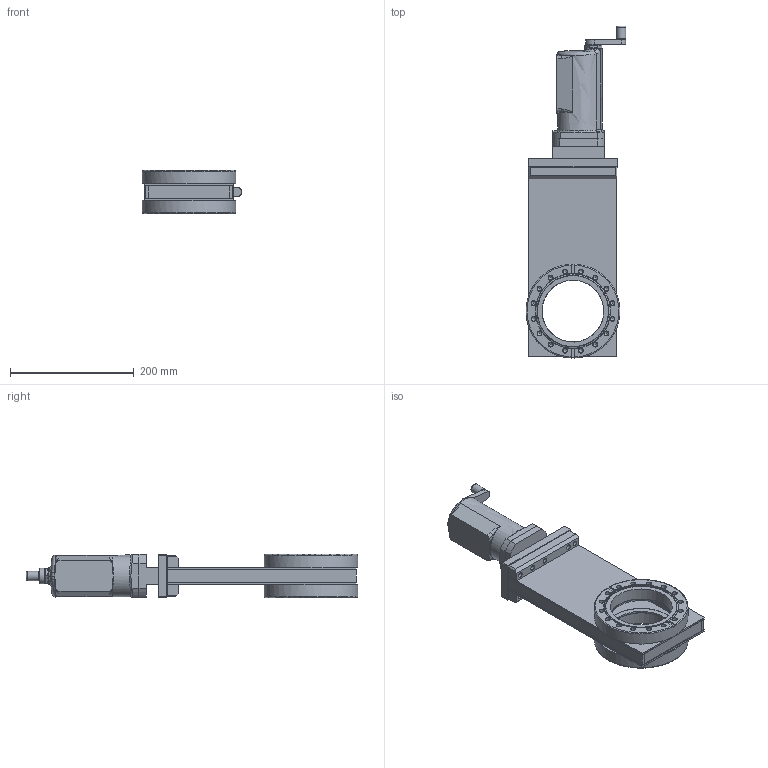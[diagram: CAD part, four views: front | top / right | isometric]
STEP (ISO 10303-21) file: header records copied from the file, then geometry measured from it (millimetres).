
FILE_DESCRIPTION((''),'2;1');
FILE_NAME('O:\MT\MT\Systeme\Cad\Datenexporte\www_vat_ch\212273.stp','2005-07-01T13:03:49',('User'),('SDRC'),'I-DEAS Master Series 9','UNIX','Yes');
FILE_SCHEMA(('CONFIG_CONTROL_DESIGN'));
Length unit declared in the file: millimetre
Assembly tree (24 placements, depth 0):
Bounding box: 161.29 x 537.04 x 70 mm (x, y, z)
Volume: 1602932.1 mm3; surface area: 426265.5 mm2
Topology: 20 solids, 20 shells, 472 faces, 1064 edges, 682 vertices
Faces by surface type: bspline 472
Entity records: 14826 total; most frequent: CARTESIAN_POINT 7325, ORIENTED_EDGE 1552, EDGE_CURVE 776, VERTEX_POINT 512, EDGE_LOOP 458, FACE_OUTER_BOUND 349, ADVANCED_FACE 349, QUASI_UNIFORM_CURVE 256
